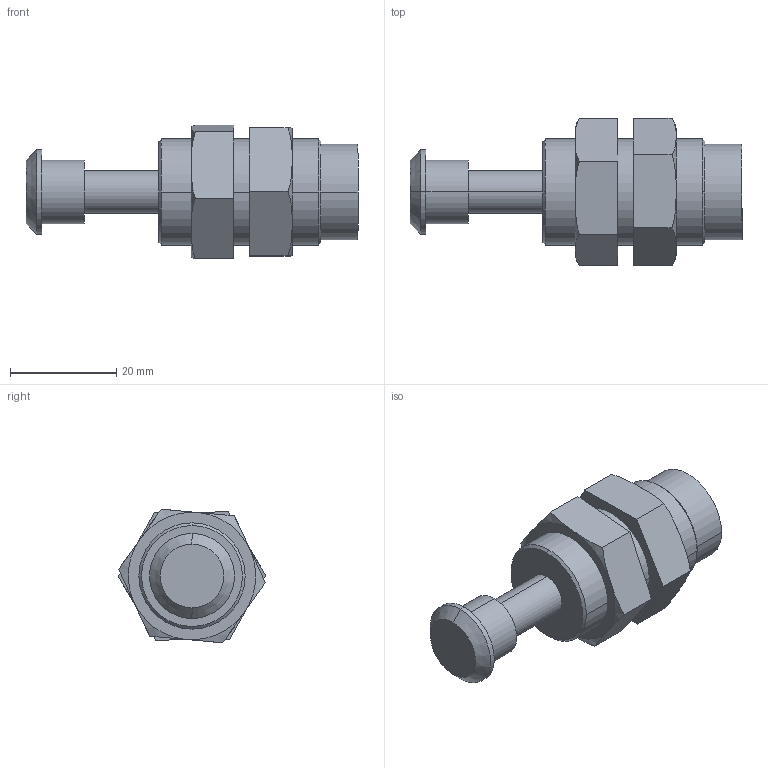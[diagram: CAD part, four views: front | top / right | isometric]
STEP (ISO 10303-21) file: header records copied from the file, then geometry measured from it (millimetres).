
FILE_DESCRIPTION (( 'STEP AP203' ), '1' );
FILE_NAME ('FSAE-2010.STEP', '2016-03-17T07:52:21', ( 'Sam Lin' ), ( '' ), 'SwSTEP 2.0', 'SolidWorks 2013', '' );
FILE_SCHEMA (( 'CONFIG_CONTROL_DESIGN' ));
Length unit declared in the file: metre
Products named in the file (3): FSAE-2010_1; M20x1.5-8mm_1; FSAE-2010
Assembly tree (3 placements, depth 2):
  FSAE-2010
    FSAE-2010_1
    M20x1.5-8mm_1  x2
Bounding box: 62.5 x 27.71 x 25.16 mm (x, y, z)
Volume: 17131.8 mm3; surface area: 7094.9 mm2
Topology: 3 solids, 3 shells, 54 faces, 118 edges, 74 vertices
Faces by surface type: plane 22, cylinder 14, bspline 12, cone 6
Entity records: 1527 total; most frequent: CARTESIAN_POINT 394, DIRECTION 174, ORIENTED_EDGE 164, EDGE_CURVE 82, AXIS2_PLACEMENT_3D 72, VERTEX_POINT 52, EDGE_LOOP 44, ADVANCED_FACE 38
